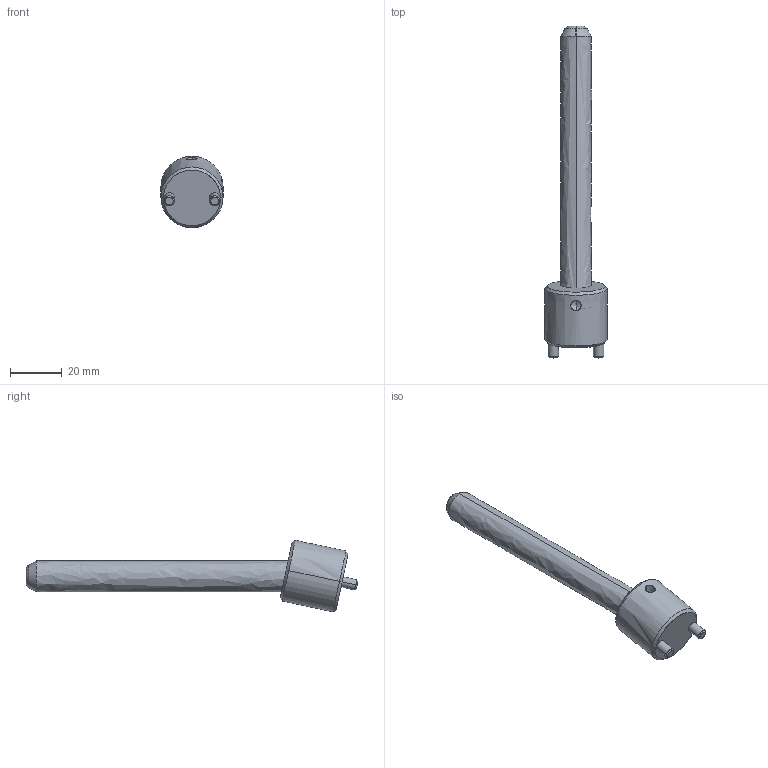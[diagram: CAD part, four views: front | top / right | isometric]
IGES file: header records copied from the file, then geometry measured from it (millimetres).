
Start section: START RECORD GO HERE.
Global section: file name: CI1212100.igs; native system: DASSAULT SYSTEMES CATIA V5 R20 - www.3ds.com; preprocessor: CATIA Version 5 Release 20 ; author: r.borello; organization: CFTORINO; date: 20190621.160203; units: millimetre
Bounding box: 24 x 128.22 x 27.63 mm (x, y, z)
Surface area: 7969.6 mm2 (no closed solid volume)
Topology: 0 solids, 0 shells, 39 faces, 162 edges, 160 vertices
Faces by surface type: revolution 32, plane 7
